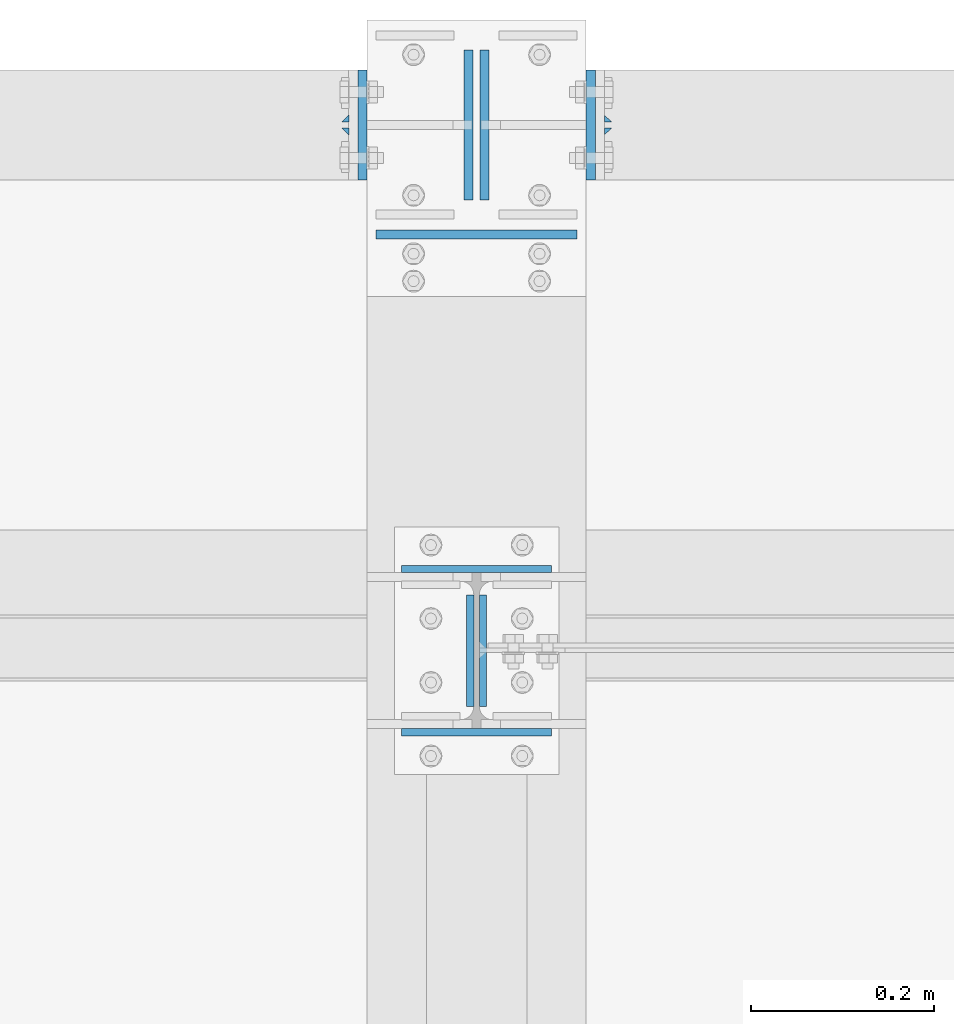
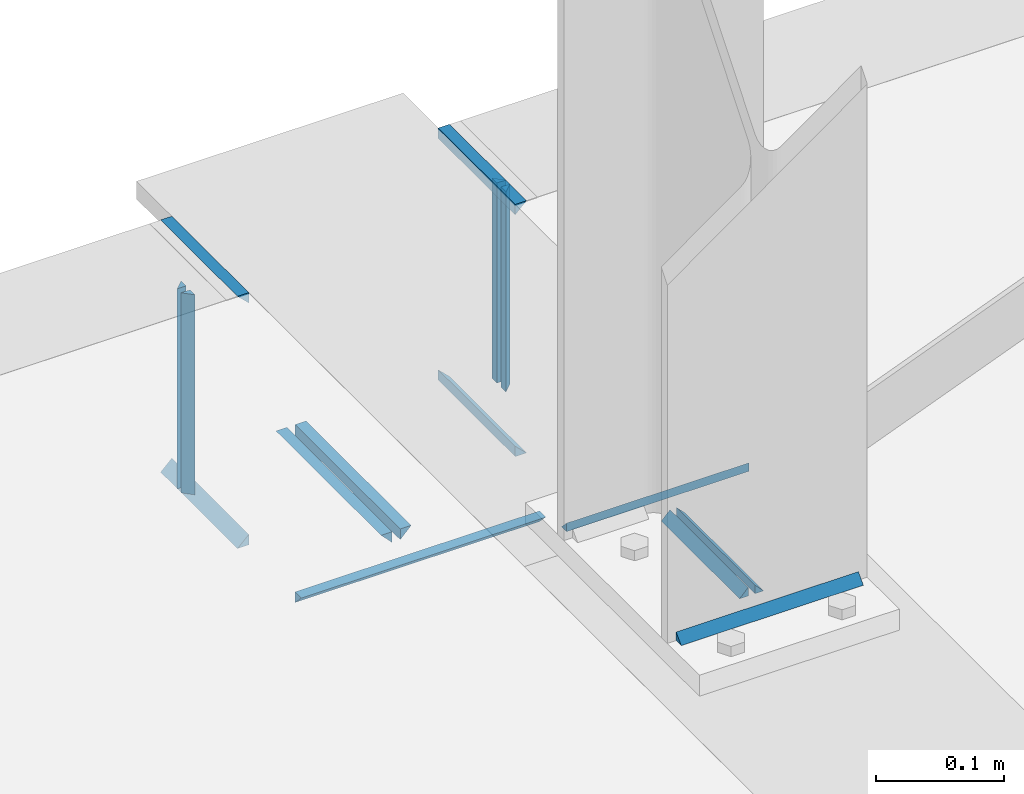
# One storey, part 24 of 66: 26 fasteners.
"""IFC4 building model written with IfcOpenShell, lengths in metres."""

from ifc_helpers import new_model, si_unit, frame, origin_with_axes, place, context, project, spatial, polyline, outline, extrude, type_object, element, save


model = new_model("IFC4")

# Units and contexts
model_context = context("Model", 3, precision=1e-05, world=origin_with_axes())
ifc_project = project(units=[si_unit("LENGTHUNIT", "METRE"), si_unit("AREAUNIT", "SQUARE_METRE"), si_unit("VOLUMEUNIT", "CUBIC_METRE"), si_unit("MASSUNIT", "GRAM", prefix="KILO"), si_unit("TIMEUNIT", "SECOND"), si_unit("PLANEANGLEUNIT", "RADIAN"), si_unit("SOLIDANGLEUNIT", "STERADIAN"), si_unit("THERMODYNAMICTEMPERATUREUNIT", "DEGREE_CELSIUS")], contexts=[model_context])

# Site, building, storey
placement_1 = place(None, origin_with_axes())
site = spatial("IfcSite", under=ifc_project, at=placement_1, Name="Italia", CompositionType="ELEMENT")
building = spatial("IfcBuilding", under=site, at=placement_1, Name="Uffici", CompositionType="ELEMENT")
storey_placement = place(None, frame((0.0, 0.0, 3.299999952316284), z_axis=(0.0, 0.0, 1.0), x_axis=(1.0, 0.0, 0.0)))
storey = spatial("IfcBuildingStorey", under=building, at=storey_placement, Name="Storey 1", CompositionType="ELEMENT", Elevation=3.299999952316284)

# Fasteners
fastener_type_1 = type_object("IfcFastenerType", Name="Collegamento 0109_0209", PredefinedType="WELD")
placement_2 = place(placement_1, origin_with_axes())
fastener_1_placement = place(placement_2, origin_with_axes())
element("IfcFastener", 1, at=fastener_1_placement, inside=storey, type_object=fastener_type_1, Name="Collegamento 0109_0209", context=model_context, shape_type="SweptSolid", body=[
    extrude(outline(polyline([(0.0, 0.0), (0.00792837, 0.00817347), (0.00792837, 0.0), (0.0, 0.0)])), frame((9.53705, 4.90788, 3.31995), z_axis=(-1.0, 0.0, 0.0), x_axis=(0.0, -1.0, 0.0)), (0.0, 0.0, 1.0), 0.164101),
])
fastener_type_2 = type_object("IfcFastenerType", Name="Collegamento 0109_0209", PredefinedType="WELD")
fastener_2_placement = place(placement_2, origin_with_axes())
element("IfcFastener", 2, at=fastener_2_placement, inside=storey, type_object=fastener_type_2, Name="Collegamento 0109_0209", context=model_context, shape_type="SweptSolid", body=[
    extrude(outline(polyline([(0.0, 0.0), (0.00792837, 0.00817347), (0.00792837, 0.0), (0.0, 0.0)])), frame((9.37295, 4.72112, 3.31995), z_axis=(1.0, 0.0, 0.0), x_axis=(0.0, 1.0, 0.0)), (0.0, 0.0, 1.0), 0.164101),
])
fastener_type_3 = type_object("IfcFastenerType", Name="Collegamento 0109_0209", PredefinedType="WELD")
fastener_3_placement = place(placement_2, origin_with_axes())
element("IfcFastener", 3, at=fastener_3_placement, inside=storey, type_object=fastener_type_3, Name="Collegamento 0109_0209", context=model_context, shape_type="SweptSolid", body=[
    extrude(outline(polyline([(0.0, 0.0), (0.00792789, 0.00817347), (0.00792789, 0.0), (0.0, 0.0)])), frame((9.46588, 4.75345, 3.31995), z_axis=(0.0, 1.0, 0.0), x_axis=(-1.0, 0.0, 0.0)), (0.0, 0.0, 1.0), 0.122101),
])
fastener_type_4 = type_object("IfcFastenerType", Name="Collegamento 0109_0209", PredefinedType="WELD")
fastener_4_placement = place(placement_2, origin_with_axes())
element("IfcFastener", 4, at=fastener_4_placement, inside=storey, type_object=fastener_type_4, Name="Collegamento 0109_0209", context=model_context, shape_type="SweptSolid", body=[
    extrude(outline(polyline([(0.0, 0.0), (0.00792789, 0.00817347), (0.00792789, 0.0), (0.0, 0.0)])), frame((9.44412, 4.87555, 3.31995), z_axis=(0.0, -1.0, 0.0), x_axis=(1.0, 0.0, 0.0)), (0.0, 0.0, 1.0), 0.122101),
])
fastener_type_5 = type_object("IfcFastenerType", Name="Collegamento 0109_0209", PredefinedType="WELD")
fastener_5_placement = place(placement_2, origin_with_axes())
element("IfcFastener", 5, at=fastener_5_placement, inside=storey, type_object=fastener_type_5, Name="Collegamento 0109_0209", context=model_context, shape_type="SweptSolid", body=[
    extrude(outline(polyline([(0.0, 0.0), (0.00792837, 0.00817347), (0.00792837, 0.0), (0.0, 0.0)])), frame((9.53705, 4.90788, 3.31995), z_axis=(-1.0, 0.0, 0.0), x_axis=(0.0, -1.0, 0.0)), (0.0, 0.0, 1.0), 0.164101),
])
fastener_type_6 = type_object("IfcFastenerType", Name="Collegamento 0109_0209", PredefinedType="WELD")
fastener_6_placement = place(placement_2, origin_with_axes())
element("IfcFastener", 6, at=fastener_6_placement, inside=storey, type_object=fastener_type_6, Name="Collegamento 0109_0209", context=model_context, shape_type="SweptSolid", body=[
    extrude(outline(polyline([(0.0, 0.0), (0.00792837, 0.00817347), (0.00792837, 0.0), (0.0, 0.0)])), frame((9.37295, 4.72112, 3.31995), z_axis=(1.0, 0.0, 0.0), x_axis=(0.0, 1.0, 0.0)), (0.0, 0.0, 1.0), 0.164101),
])
fastener_type_7 = type_object("IfcFastenerType", Name="Collegamento 0109_0209", PredefinedType="WELD")
fastener_7_placement = place(placement_2, origin_with_axes())
element("IfcFastener", 7, at=fastener_7_placement, inside=storey, type_object=fastener_type_7, Name="Collegamento 0109_0209", context=model_context, shape_type="SweptSolid", body=[
    extrude(outline(polyline([(0.0, 0.0), (0.00792789, 0.00817347), (0.00792789, 0.0), (0.0, 0.0)])), frame((9.46588, 4.75345, 3.31995), z_axis=(0.0, 1.0, 0.0), x_axis=(-1.0, 0.0, 0.0)), (0.0, 0.0, 1.0), 0.122101),
])
fastener_type_8 = type_object("IfcFastenerType", Name="Collegamento 0109_0209", PredefinedType="WELD")
fastener_8_placement = place(placement_2, origin_with_axes())
element("IfcFastener", 8, at=fastener_8_placement, inside=storey, type_object=fastener_type_8, Name="Collegamento 0109_0209", context=model_context, shape_type="SweptSolid", body=[
    extrude(outline(polyline([(0.0, 0.0), (0.00792789, 0.00817347), (0.00792789, 0.0), (0.0, 0.0)])), frame((9.44412, 4.87555, 3.31995), z_axis=(0.0, -1.0, 0.0), x_axis=(1.0, 0.0, 0.0)), (0.0, 0.0, 1.0), 0.122101),
])
fastener_type_9 = type_object("IfcFastenerType", Name="Collegamenti 0111_0011 0112_0012 0113_0013 0114_0014 0115_0015", PredefinedType="WELD")
fastener_9_placement = place(placement_2, origin_with_axes())
element("IfcFastener", 9, at=fastener_9_placement, inside=storey, type_object=fastener_type_9, Name="Collegamenti 0111_0011 0112_0012 0113_0013 0114_0014 0115_0015", context=model_context, shape_type="SweptSolid", body=[
    extrude(outline(polyline([(0.0, 0.0), (-0.00986814, -0.0101733), (-0.00986814, 0.0), (0.0, 0.0)])), frame((9.56505, 5.26518, 3.04505), z_axis=(-1.0, 0.0, 0.0), x_axis=(0.0, -1.0, 0.0)), (0.0, 0.0, 1.0), 0.2201),
])
fastener_type_10 = type_object("IfcFastenerType", Name="Collegamenti 0111_0011 0112_0012 0113_0013 0114_0014 0115_0015", PredefinedType="WELD")
fastener_10_placement = place(placement_2, origin_with_axes())
element("IfcFastener", 10, at=fastener_10_placement, inside=storey, type_object=fastener_type_10, Name="Collegamenti 0111_0011 0112_0012 0113_0013 0114_0014 0115_0015", context=model_context, shape_type="SweptSolid", body=[
    extrude(outline(polyline([(0.0, 0.0), (-0.00986767, -0.0101733), (-0.00986767, 0.0), (0.0, 0.0)])), frame((9.46857, 5.47205, 3.04505), z_axis=(0.0, -1.0, 0.0), x_axis=(1.0, 0.0, 0.0)), (0.0, 0.0, 1.0), 0.164101),
])
fastener_type_11 = type_object("IfcFastenerType", Name="Collegamenti 0111_0011 0112_0012 0113_0013 0114_0014 0115_0015", PredefinedType="WELD")
fastener_11_placement = place(placement_2, origin_with_axes())
element("IfcFastener", 11, at=fastener_11_placement, inside=storey, type_object=fastener_type_11, Name="Collegamenti 0111_0011 0112_0012 0113_0013 0114_0014 0115_0015", context=model_context, shape_type="SweptSolid", body=[
    extrude(outline(polyline([(0.0, 0.0), (-0.00986767, -0.0101733), (-0.00986767, 0.0), (0.0, 0.0)])), frame((9.44143, 5.30795, 3.04505), z_axis=(0.0, 1.0, 0.0), x_axis=(-1.0, 0.0, 0.0)), (0.0, 0.0, 1.0), 0.164101),
])
fastener_type_12 = type_object("IfcFastenerType", Name="Collegamenti 0111_0011 0112_0012 0113_0013 0114_0014 0115_0015", PredefinedType="WELD")
fastener_12_placement = place(placement_2, origin_with_axes())
element("IfcFastener", 12, at=fastener_12_placement, inside=storey, type_object=fastener_type_12, Name="Collegamenti 0111_0011 0112_0012 0113_0013 0114_0014 0115_0015", context=model_context, shape_type="SweptSolid", body=[
    extrude(outline(polyline([(0.0, 0.0), (-0.00986814, -0.0101733), (-0.00986814, 0.0), (0.0, 0.0)])), frame((9.56505, 5.26518, 3.04505), z_axis=(-1.0, 0.0, 0.0), x_axis=(0.0, -1.0, 0.0)), (0.0, 0.0, 1.0), 0.2201),
])
fastener_type_13 = type_object("IfcFastenerType", Name="Collegamenti 0111_0011 0112_0012 0113_0013 0114_0014 0115_0015", PredefinedType="WELD")
fastener_13_placement = place(placement_2, origin_with_axes())
element("IfcFastener", 13, at=fastener_13_placement, inside=storey, type_object=fastener_type_13, Name="Collegamenti 0111_0011 0112_0012 0113_0013 0114_0014 0115_0015", context=model_context, shape_type="SweptSolid", body=[
    extrude(outline(polyline([(0.0, 0.0), (-0.00986767, -0.0101733), (-0.00986767, 0.0), (0.0, 0.0)])), frame((9.46857, 5.47205, 3.04505), z_axis=(0.0, -1.0, 0.0), x_axis=(1.0, 0.0, 0.0)), (0.0, 0.0, 1.0), 0.164101),
])
fastener_type_14 = type_object("IfcFastenerType", Name="Collegamenti 0111_0011 0112_0012 0113_0013 0114_0014 0115_0015", PredefinedType="WELD")
fastener_14_placement = place(placement_2, origin_with_axes())
element("IfcFastener", 14, at=fastener_14_placement, inside=storey, type_object=fastener_type_14, Name="Collegamenti 0111_0011 0112_0012 0113_0013 0114_0014 0115_0015", context=model_context, shape_type="SweptSolid", body=[
    extrude(outline(polyline([(0.0, 0.0), (-0.00986767, -0.0101733), (-0.00986767, 0.0), (0.0, 0.0)])), frame((9.44143, 5.30795, 3.04505), z_axis=(0.0, 1.0, 0.0), x_axis=(-1.0, 0.0, 0.0)), (0.0, 0.0, 1.0), 0.164101),
])
fastener_type_15 = type_object("IfcFastenerType", Name="Collegamento 0114_0113", PredefinedType="WELD")
fastener_15_placement = place(placement_2, origin_with_axes())
element("IfcFastener", 15, at=fastener_15_placement, inside=storey, type_object=fastener_type_15, Name="Collegamento 0114_0113", context=model_context, shape_type="SweptSolid", body=[
    extrude(outline(polyline([(0.0, 0.0), (0.00792837, 0.00817299), (0.00792837, 0.0), (0.0, 0.0)])), frame((9.31505, 5.37902, 3.08475), z_axis=(0.0, 0.0, 1.0), x_axis=(0.0, 1.0, 0.0)), (0.0, 0.0, 1.0), 0.1905),
])
fastener_type_16 = type_object("IfcFastenerType", Name="Collegamento 0114_0113", PredefinedType="WELD")
fastener_16_placement = place(placement_2, origin_with_axes())
element("IfcFastener", 16, at=fastener_16_placement, inside=storey, type_object=fastener_type_16, Name="Collegamento 0114_0113", context=model_context, shape_type="SweptSolid", body=[
    extrude(outline(polyline([(0.0, 0.0), (-0.00792837, -0.00817299), (-0.00792837, 0.0), (0.0, 0.0)])), frame((9.31505, 5.40098, 3.27525), z_axis=(0.0, 0.0, -1.0), x_axis=(0.0, 1.0, 0.0)), (0.0, 0.0, 1.0), 0.1905),
])
fastener_type_17 = type_object("IfcFastenerType", Name="Collegamento 0114_0113", PredefinedType="WELD")
fastener_17_placement = place(placement_2, origin_with_axes())
element("IfcFastener", 17, at=fastener_17_placement, inside=storey, type_object=fastener_type_17, Name="Collegamento 0114_0113", context=model_context, shape_type="SweptSolid", body=[
    extrude(outline(polyline([(0.0, 0.0), (0.00792837, 0.00817299), (0.00792837, 0.0), (0.0, 0.0)])), frame((9.31505, 5.37902, 3.08475), z_axis=(0.0, 0.0, 1.0), x_axis=(0.0, 1.0, 0.0)), (0.0, 0.0, 1.0), 0.1905),
])
fastener_type_18 = type_object("IfcFastenerType", Name="Collegamento 0114_0113", PredefinedType="WELD")
fastener_18_placement = place(placement_2, origin_with_axes())
element("IfcFastener", 18, at=fastener_18_placement, inside=storey, type_object=fastener_type_18, Name="Collegamento 0114_0113", context=model_context, shape_type="SweptSolid", body=[
    extrude(outline(polyline([(0.0, 0.0), (-0.00792837, -0.00817299), (-0.00792837, 0.0), (0.0, 0.0)])), frame((9.31505, 5.40098, 3.27525), z_axis=(0.0, 0.0, -1.0), x_axis=(0.0, 1.0, 0.0)), (0.0, 0.0, 1.0), 0.1905),
])
fastener_type_19 = type_object("IfcFastenerType", Name="Collegamento 0114_0113", PredefinedType="WELD")
fastener_19_placement = place(placement_2, origin_with_axes())
element("IfcFastener", 19, at=fastener_19_placement, inside=storey, type_object=fastener_type_19, Name="Collegamento 0114_0113", context=model_context, shape_type="SweptSolid", body=[
    extrude(outline(polyline([(0.0, 0.0), (0.0101728, -0.00986814), (0.0, -0.00986814), (0.0, 0.0)])), frame((9.33505, 5.32995, 3.06982), z_axis=(0.0, 1.0, 0.0), x_axis=(-1.0, 0.0, 0.0)), (0.0, 0.0, 1.0), 0.1201),
])
fastener_type_20 = type_object("IfcFastenerType", Name="Collegamento 0114_0113", PredefinedType="WELD")
fastener_20_placement = place(placement_2, origin_with_axes())
element("IfcFastener", 20, at=fastener_20_placement, inside=storey, type_object=fastener_type_20, Name="Collegamento 0114_0113", context=model_context, shape_type="SweptSolid", body=[
    extrude(outline(polyline([(0.0, 0.0), (-0.0101728, 0.00986814), (0.0, 0.00986814), (0.0, 0.0)])), frame((9.33505, 5.45005, 3.29018), z_axis=(0.0, -1.0, 0.0), x_axis=(1.0, 0.0, 0.0)), (0.0, 0.0, 1.0), 0.1201),
])
fastener_type_21 = type_object("IfcFastenerType", Name="Collegamento 0114_0115", PredefinedType="WELD")
fastener_21_placement = place(placement_2, origin_with_axes())
element("IfcFastener", 21, at=fastener_21_placement, inside=storey, type_object=fastener_type_21, Name="Collegamento 0114_0115", context=model_context, shape_type="SweptSolid", body=[
    extrude(outline(polyline([(0.0, 0.0), (0.00792837, 0.00817299), (0.00792837, 0.0), (0.0, 0.0)])), frame((9.59495, 5.37902, 3.27525), z_axis=(0.0, 0.0, -1.0), x_axis=(0.0, 1.0, 0.0)), (0.0, 0.0, 1.0), 0.1905),
])
fastener_type_22 = type_object("IfcFastenerType", Name="Collegamento 0114_0115", PredefinedType="WELD")
fastener_22_placement = place(placement_2, origin_with_axes())
element("IfcFastener", 22, at=fastener_22_placement, inside=storey, type_object=fastener_type_22, Name="Collegamento 0114_0115", context=model_context, shape_type="SweptSolid", body=[
    extrude(outline(polyline([(0.0, 0.0), (-0.00792837, -0.00817299), (-0.00792837, 0.0), (0.0, 0.0)])), frame((9.59495, 5.40098, 3.08475), z_axis=(0.0, 0.0, 1.0), x_axis=(0.0, 1.0, 0.0)), (0.0, 0.0, 1.0), 0.1905),
])
fastener_type_23 = type_object("IfcFastenerType", Name="Collegamento 0114_0115", PredefinedType="WELD")
fastener_23_placement = place(placement_2, origin_with_axes())
element("IfcFastener", 23, at=fastener_23_placement, inside=storey, type_object=fastener_type_23, Name="Collegamento 0114_0115", context=model_context, shape_type="SweptSolid", body=[
    extrude(outline(polyline([(0.0, 0.0), (0.00792837, 0.00817299), (0.00792837, 0.0), (0.0, 0.0)])), frame((9.59495, 5.37902, 3.27525), z_axis=(0.0, 0.0, -1.0), x_axis=(0.0, 1.0, 0.0)), (0.0, 0.0, 1.0), 0.1905),
])
fastener_type_24 = type_object("IfcFastenerType", Name="Collegamento 0114_0115", PredefinedType="WELD")
fastener_24_placement = place(placement_2, origin_with_axes())
element("IfcFastener", 24, at=fastener_24_placement, inside=storey, type_object=fastener_type_24, Name="Collegamento 0114_0115", context=model_context, shape_type="SweptSolid", body=[
    extrude(outline(polyline([(0.0, 0.0), (-0.00792837, -0.00817299), (-0.00792837, 0.0), (0.0, 0.0)])), frame((9.59495, 5.40098, 3.08475), z_axis=(0.0, 0.0, 1.0), x_axis=(0.0, 1.0, 0.0)), (0.0, 0.0, 1.0), 0.1905),
])
fastener_type_25 = type_object("IfcFastenerType", Name="Collegamento 0114_0115", PredefinedType="WELD")
fastener_25_placement = place(placement_2, origin_with_axes())
element("IfcFastener", 25, at=fastener_25_placement, inside=storey, type_object=fastener_type_25, Name="Collegamento 0114_0115", context=model_context, shape_type="SweptSolid", body=[
    extrude(outline(polyline([(0.0, 0.0), (0.0101728, -0.00986814), (0.0, -0.00986814), (0.0, 0.0)])), frame((9.57495, 5.45005, 3.06982), z_axis=(0.0, -1.0, 0.0), x_axis=(1.0, 0.0, 0.0)), (0.0, 0.0, 1.0), 0.1201),
])
fastener_type_26 = type_object("IfcFastenerType", Name="Collegamento 0114_0115", PredefinedType="WELD")
fastener_26_placement = place(placement_2, origin_with_axes())
element("IfcFastener", 26, at=fastener_26_placement, inside=storey, type_object=fastener_type_26, Name="Collegamento 0114_0115", context=model_context, shape_type="SweptSolid", body=[
    extrude(outline(polyline([(0.0, 0.0), (-0.0101728, 0.00986814), (0.0, 0.00986814), (0.0, 0.0)])), frame((9.57495, 5.32995, 3.29018), z_axis=(0.0, 1.0, 0.0), x_axis=(-1.0, 0.0, 0.0)), (0.0, 0.0, 1.0), 0.1201),
])

save(model, "model.ifc")
